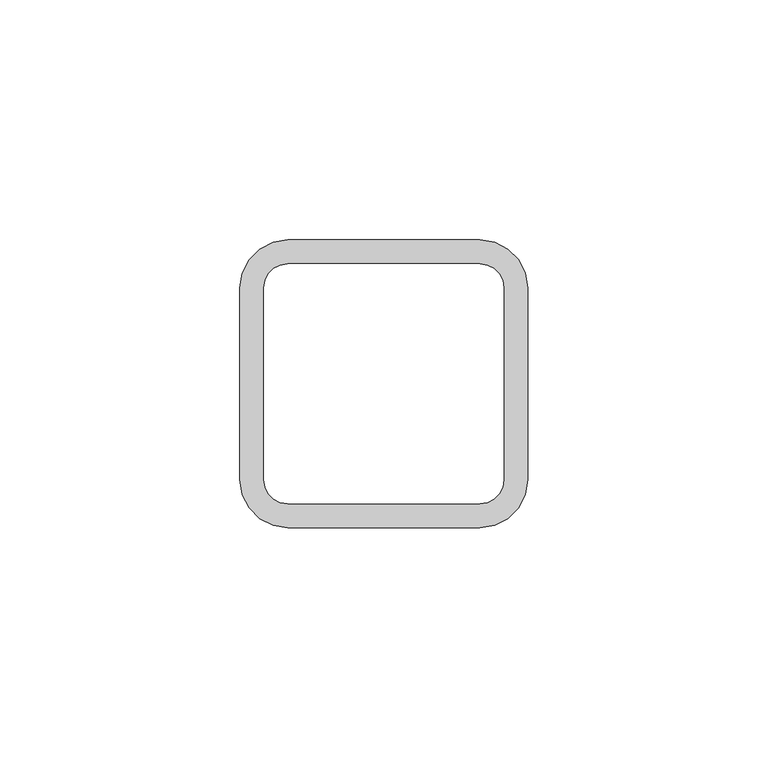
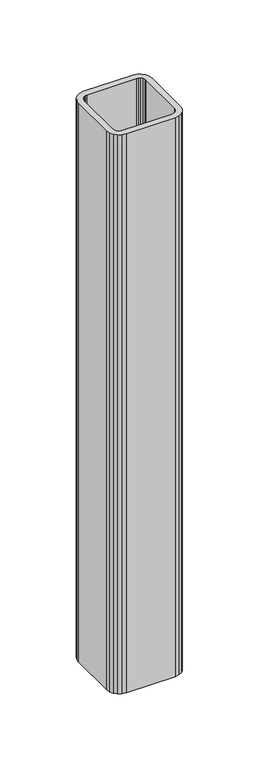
"""IFC4 building model written with IfcOpenShell, lengths in millimetres: beam geometry,  98838 :  98838."""

from ifc_helpers import new_model, si_unit, frame, origin, place, context, project, spatial, polyline, outline, extrude, source, transform, mapped, element, save


def beam_f9063047(model_context):
    return source(origin(), model_context, "Body", "SweptSolid", [
        extrude(outline(polyline([(-139.5105653, -35766.5), (-139.5105653, -35726.5), (-139.0211305, -35723.4098301), (-137.6007352, -35720.6221475), (-135.3884178, -35718.4098301), (-132.6007352, -35716.9894348), (-129.5105653, -35716.5), (-89.5105653, -35716.5), (-86.4203954, -35716.9894348), (-83.6327128, -35718.4098301), (-81.4203954, -35720.6221475), (-80.0000001, -35723.4098301), (-79.5105653, -35726.5), (-79.5105653, -35766.5), (-80.0000001, -35769.5901699), (-81.4203954, -35772.3778525), (-83.6327128, -35774.5901699), (-86.4203954, -35776.0105652), (-89.5105653, -35776.5), (-129.5105653, -35776.5), (-132.6007352, -35776.0105652), (-135.3884178, -35774.5901699), (-137.6007352, -35772.3778525), (-139.0211305, -35769.5901699), (-139.5105653, -35766.5)]), holes=[polyline([(-129.5105653, -35771.5), (-89.5105653, -35771.5), (-87.9654803, -35771.2552826), (-86.571639, -35770.545085), (-85.4654803, -35769.4389263), (-84.7552827, -35768.045085), (-84.5105653, -35766.5), (-84.5105653, -35726.5), (-84.7552827, -35724.954915), (-85.4654803, -35723.5610737), (-86.571639, -35722.454915), (-87.9654803, -35721.7447174), (-89.5105653, -35721.5), (-129.5105653, -35721.5), (-131.0556503, -35721.7447174), (-132.4494916, -35722.454915), (-133.5556503, -35723.5610737), (-134.2658479, -35724.954915), (-134.5105653, -35726.5), (-134.5105653, -35766.5), (-134.2658479, -35768.045085), (-133.5556503, -35769.4389263), (-132.4494916, -35770.545085), (-131.0556503, -35771.2552826), (-129.5105653, -35771.5)])]), frame((0.0, 0.0, 7970.0), z_axis=(0.0, 0.0, 1.0), x_axis=(1.0, 0.0, 0.0)), (0.0, 0.0, 1.0), 480.0),
    ])


if __name__ == "__main__":
    model = new_model("IFC4")
    model_context = context("Model", 3, world=origin())
    ifc_project = project(units=[si_unit("LENGTHUNIT", "METRE", prefix="MILLI")], contexts=[model_context])
    site = spatial("IfcSite", under=ifc_project)
    building = spatial("IfcBuilding", under=site)
    placement = place(None, origin())
    beam_shape = beam_f9063047(model_context)
    element("IfcBeam", 1, ObjectType=" 98838 :  98838", at=placement, inside=building, context=model_context, shape_type="MappedRepresentation", body=[
        mapped(beam_shape, transform((0.0, 0.0, 0.0), x_axis=(1.0, 0.0, 0.0), y_axis=(0.0, 1.0, 0.0), z_axis=(0.0, 0.0, 1.0))),
    ])
    save(model, "model.ifc")
